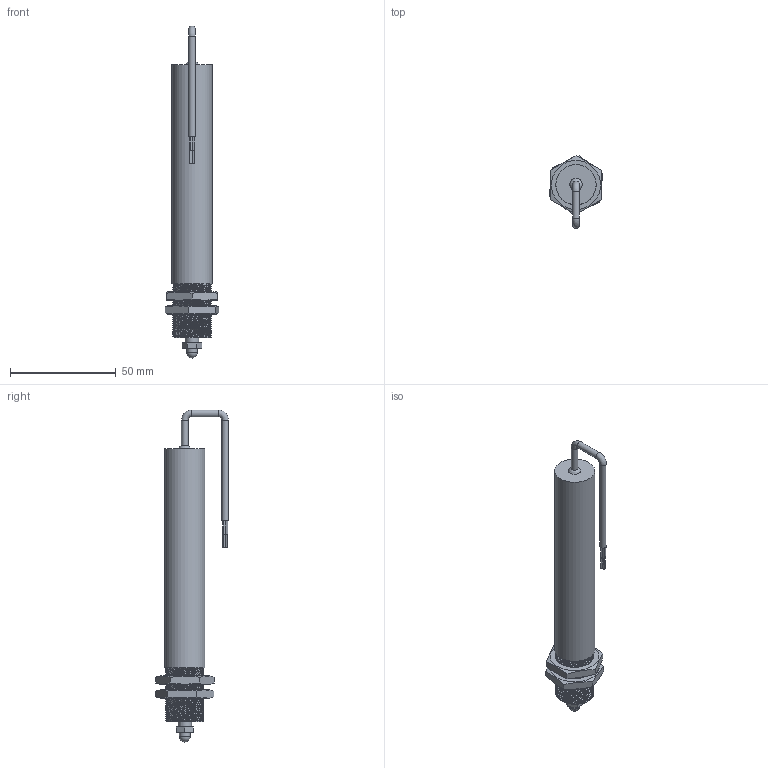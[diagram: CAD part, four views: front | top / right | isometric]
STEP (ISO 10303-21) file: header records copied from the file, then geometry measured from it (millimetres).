
FILE_DESCRIPTION(/* description */ ('ILPS-18S-050-A-00-YY-A SW'),/* implementation_level */ '2;1');
FILE_NAME(/* name */ 'ILPS-18S-050-A-00-YY-A SW.stp',/* time_stamp */ '2026-09-01T08:33:18-04:00',/* author */ ('Cameron'),/* organization */ ('HGSI'),/* preprocessor_version */ 'ST-DEVELOPER v20.1',/* originating_system */ 'Autodesk Inventor 2027',/* authorisation */ '');
FILE_SCHEMA (('AUTOMOTIVE_DESIGN { 1 0 10303 214 3 1 1 }'));
Length unit declared in the file: inch
Products named in the file (5): ILPS-18S-050-A-00-YY-A SW; ILPS-18S-050 Spoiler; Hex Nut; #12360; ILPS-18S-050-A-00-YY-A Body SW
Assembly tree (5 placements, depth 2):
  ILPS-18S-050-A-00-YY-A SW
    ILPS-18S-050 Spoiler
    Hex Nut  x2
    #12360
    ILPS-18S-050-A-00-YY-A Body SW
Bounding box: 25.42 x 34.49 x 156.9 mm (x, y, z)
Volume: 38374.7 mm3; surface area: 17517.1 mm2
Topology: 7 solids, 7 shells, 139 faces, 335 edges, 234 vertices
Faces by surface type: cylinder 74, plane 46, bspline 12, cone 4, torus 2, sphere 1
Full cylindrical faces by diameter (mm): 0.635 x4, 0.762 x4, 1.905 x1, 2.845 x3, 3.175 x4, 5.08 x1, 6.35 x2, 16.891 x24, 18 x25, 19.05 x1
Entity records: 12339 total; most frequent: CARTESIAN_POINT 9252, ORIENTED_EDGE 600, DIRECTION 471, EDGE_CURVE 300, VERTEX_POINT 198, AXIS2_PLACEMENT_3D 184, EDGE_LOOP 146, B_SPLINE_CURVE_WITH_KNOTS 128
